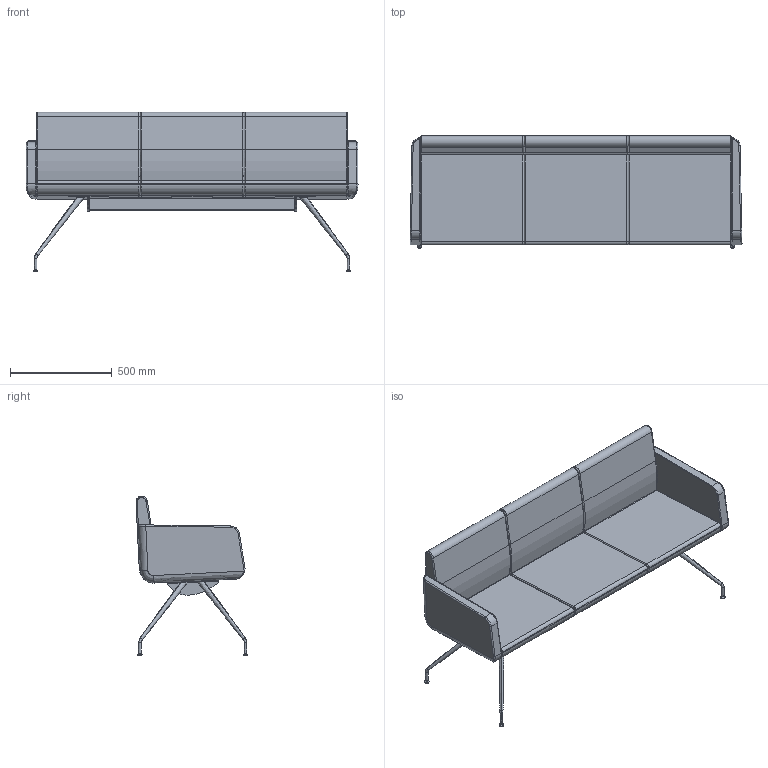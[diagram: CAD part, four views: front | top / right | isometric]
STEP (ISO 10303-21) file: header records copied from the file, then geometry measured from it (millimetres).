
FILE_DESCRIPTION(/* description */ (''),/* implementation_level */ '2;1');
FILE_NAME(/* name */ 'DELTA3~1',/* time_stamp */ '2016-06-16T16:19:56+02:00',/* author */ (''),/* organization */ (''),/* preprocessor_version */ 'ST-DEVELOPER v15',/* originating_system */ '',/* authorisation */ '');
FILE_SCHEMA (('CONFIG_CONTROL_DESIGN'));
Length unit declared in the file: millimetre
Products named in the file (1): Document
Bounding box: 1633.67 x 550.98 x 785.18 mm (x, y, z)
Volume: 104530921 mm3; surface area: 4485396 mm2
Topology: 10 solids, 19 shells, 281 faces, 632 edges, 380 vertices
Faces by surface type: bspline 245, plane 36
Entity records: 9269 total; most frequent: CARTESIAN_POINT 5880, ORIENTED_EDGE 1214, EDGE_CURVE 627, VERTEX_POINT 374, EDGE_LOOP 285, ADVANCED_FACE 281, FACE_OUTER_BOUND 281, B_SPLINE_CURVE_WITH_KNOTS 68
